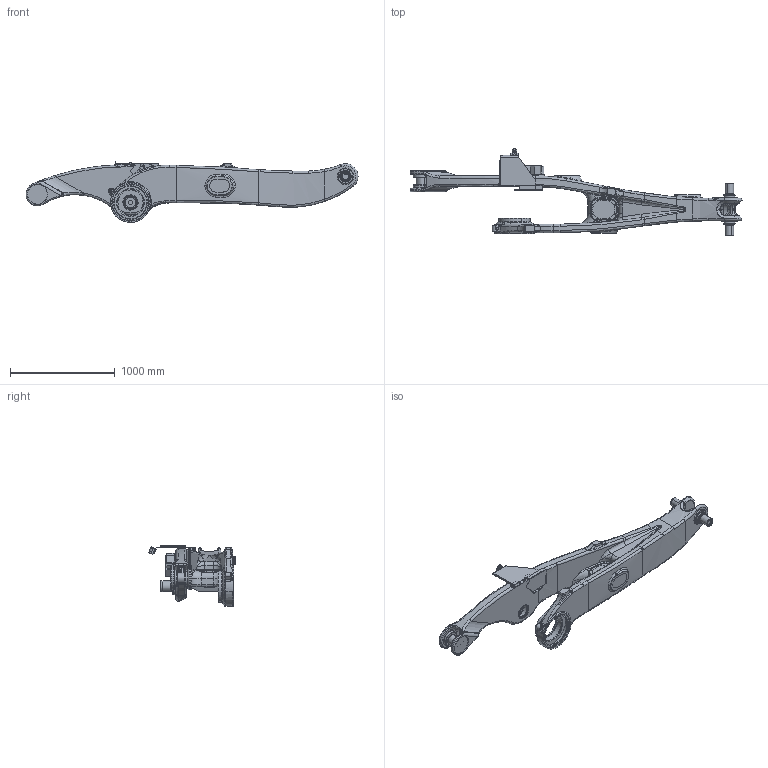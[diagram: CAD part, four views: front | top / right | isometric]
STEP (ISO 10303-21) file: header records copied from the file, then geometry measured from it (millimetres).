
FILE_DESCRIPTION(('CATIA V5 STEP Exchange','CAx-IF Rec.Pracs.--- Model Styling and Organization---1.2---2011-12-15','CAx-IF Rec.Pracs.--- Geometric and Assembly Validation Properties ---3.1---2011-10-19'),'2;1');
FILE_NAME('Z:\ROBOT\CATIA06\products\MC1000DL\Light_model\Step\080_J3_1stArm_MC1000DL-02.stp','2016-12-26T04:09:00+00:00',('none'),('none'),'Version 5-6 Release 2012','CATIA V5 STEP AP214','none');
FILE_SCHEMA(('AUTOMOTIVE_DESIGN { 1 0 10303 214 1 1 1 1 }'));
Products named in the file (1): 080_J3_1stArm_MC1000DL-02
Bounding box: 3166.47 x 825.62 x 580 mm (x, y, z)
Volume: 82699738.8 mm3; surface area: 9267340.2 mm2
Topology: 26 solids, 28 shells, 1812 faces, 4180 edges, 2401 vertices
Faces by surface type: bspline 497, cylinder 479, plane 313, torus 294, cone 206, extrusion 14, sphere 9
Entity records: 110031 total; most frequent: CARTESIAN_POINT 74814, ORIENTED_EDGE 8200, DIRECTION 4771, EDGE_CURVE 4100, AXIS2_PLACEMENT_3D 2531, VERTEX_POINT 2401, EDGE_LOOP 1913, ADVANCED_FACE 1812
